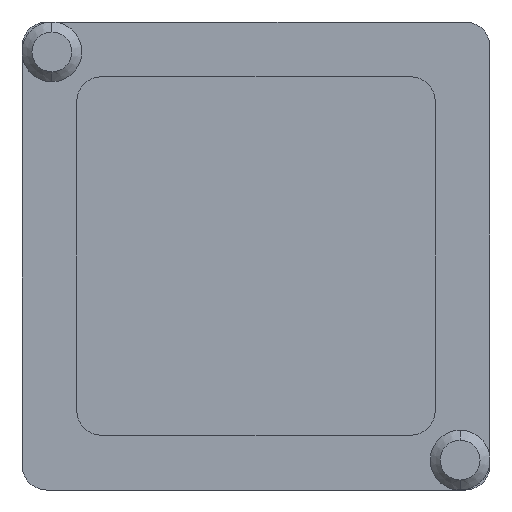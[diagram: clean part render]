
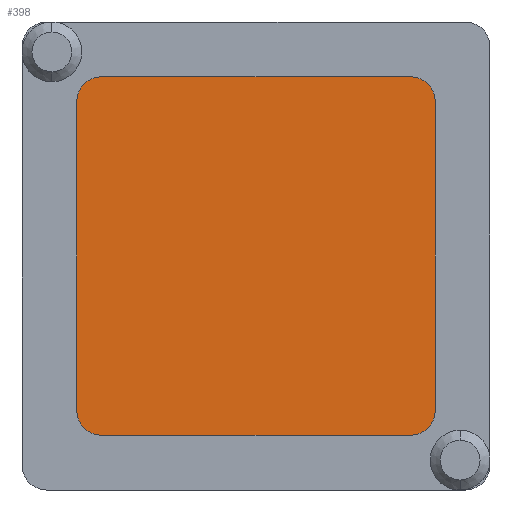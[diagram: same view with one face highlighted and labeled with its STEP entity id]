
A CAD part, front view. The second image highlights one B-rep face of the part: STEP entity #398.
In plain terms, the highlighted planar face has unit normal (0, -1, 0).
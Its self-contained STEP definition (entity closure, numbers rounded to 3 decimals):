
#22 = ORIENTED_EDGE ( 'NONE', *, *, #369, .T. ) ;
#62 = CIRCLE ( 'NONE', #1085, 0.25 ) ;
#70 = ORIENTED_EDGE ( 'NONE', *, *, #1193, .T. ) ;
#75 = DIRECTION ( 'NONE',  ( 0., 0., 1. ) ) ;
#83 = EDGE_LOOP ( 'NONE', ( #959, #1012, #233, #1008, #1133, #22, #471, #70 ) ) ;
#106 = DIRECTION ( 'NONE',  ( 0., 0., 1. ) ) ;
#155 = AXIS2_PLACEMENT_3D ( 'NONE', #731, #320, #106 ) ;
#176 = VECTOR ( 'NONE', #1250, 1000. ) ;
#233 = ORIENTED_EDGE ( 'NONE', *, *, #344, .T. ) ;
#238 = VERTEX_POINT ( 'NONE', #739 ) ;
#263 = CIRCLE ( 'NONE', #984, 0.25 ) ;
#273 = DIRECTION ( 'NONE',  ( 0., -1., 0. ) ) ;
#278 = CARTESIAN_POINT ( 'NONE',  ( 0.8, 2.2, -0.8 ) ) ;
#320 = DIRECTION ( 'NONE',  ( 0., -1., 0. ) ) ;
#344 = EDGE_CURVE ( 'NONE', #1210, #1041, #455, .T. ) ;
#354 = DIRECTION ( 'NONE',  ( 0., -1., 0. ) ) ;
#369 = EDGE_CURVE ( 'NONE', #1061, #531, #653, .T. ) ;
#374 = EDGE_CURVE ( 'NONE', #871, #1061, #470, .T. ) ;
#378 = DIRECTION ( 'NONE',  ( 0., -1., 0. ) ) ;
#394 = CARTESIAN_POINT ( 'NONE',  ( 3.9, 2.2, -0.55 ) ) ;
#398 = ADVANCED_FACE ( 'NONE', ( #1201 ), #745, .T. ) ;
#403 = VERTEX_POINT ( 'NONE', #753 ) ;
#432 = EDGE_CURVE ( 'NONE', #1041, #871, #62, .T. ) ;
#455 = LINE ( 'NONE', #746, #176 ) ;
#470 = LINE ( 'NONE', #982, #971 ) ;
#471 = ORIENTED_EDGE ( 'NONE', *, *, #515, .T. ) ;
#492 = CARTESIAN_POINT ( 'NONE',  ( 4.15, 2.2, -0.8 ) ) ;
#493 = VECTOR ( 'NONE', #909, 1000. ) ;
#515 = EDGE_CURVE ( 'NONE', #531, #403, #593, .T. ) ;
#531 = VERTEX_POINT ( 'NONE', #695 ) ;
#573 = DIRECTION ( 'NONE',  ( 0., 0., 1. ) ) ;
#593 = LINE ( 'NONE', #601, #831 ) ;
#601 = CARTESIAN_POINT ( 'NONE',  ( 0.55, 2.2, -4.15 ) ) ;
#605 = CARTESIAN_POINT ( 'NONE',  ( 4.15, 2.2, -4.15 ) ) ;
#628 = EDGE_CURVE ( 'NONE', #238, #1131, #1183, .T. ) ;
#635 = DIRECTION ( 'NONE',  ( 0., 0., -1. ) ) ;
#638 = CARTESIAN_POINT ( 'NONE',  ( 0.55, 2.2, -0.8 ) ) ;
#653 = CIRCLE ( 'NONE', #916, 0.25 ) ;
#662 = CARTESIAN_POINT ( 'NONE',  ( 0.8, 2.2, -0.55 ) ) ;
#695 = CARTESIAN_POINT ( 'NONE',  ( 0.8, 2.2, -4.15 ) ) ;
#718 = EDGE_CURVE ( 'NONE', #1131, #1210, #1299, .T. ) ;
#731 = CARTESIAN_POINT ( 'NONE',  ( 3.9, 2.2, -0.8 ) ) ;
#739 = CARTESIAN_POINT ( 'NONE',  ( 4.15, 2.2, -3.9 ) ) ;
#745 = PLANE ( 'NONE',  #820 ) ;
#746 = CARTESIAN_POINT ( 'NONE',  ( 4.15, 2.2, -0.55 ) ) ;
#753 = CARTESIAN_POINT ( 'NONE',  ( 3.9, 2.2, -4.15 ) ) ;
#820 = AXIS2_PLACEMENT_3D ( 'NONE', #1245, #354, #635 ) ;
#831 = VECTOR ( 'NONE', #1319, 1000. ) ;
#871 = VERTEX_POINT ( 'NONE', #638 ) ;
#880 = CARTESIAN_POINT ( 'NONE',  ( 0.55, 2.2, -3.9 ) ) ;
#883 = DIRECTION ( 'NONE',  ( 0., 0., -1. ) ) ;
#909 = DIRECTION ( 'NONE',  ( 0., 0., 1. ) ) ;
#916 = AXIS2_PLACEMENT_3D ( 'NONE', #1076, #273, #1082 ) ;
#959 = ORIENTED_EDGE ( 'NONE', *, *, #628, .T. ) ;
#971 = VECTOR ( 'NONE', #883, 1000. ) ;
#982 = CARTESIAN_POINT ( 'NONE',  ( 0.55, 2.2, -0.55 ) ) ;
#984 = AXIS2_PLACEMENT_3D ( 'NONE', #1099, #1300, #75 ) ;
#1008 = ORIENTED_EDGE ( 'NONE', *, *, #432, .T. ) ;
#1012 = ORIENTED_EDGE ( 'NONE', *, *, #718, .T. ) ;
#1041 = VERTEX_POINT ( 'NONE', #662 ) ;
#1061 = VERTEX_POINT ( 'NONE', #880 ) ;
#1076 = CARTESIAN_POINT ( 'NONE',  ( 0.8, 2.2, -3.9 ) ) ;
#1082 = DIRECTION ( 'NONE',  ( 0., 0., 1. ) ) ;
#1085 = AXIS2_PLACEMENT_3D ( 'NONE', #278, #378, #573 ) ;
#1099 = CARTESIAN_POINT ( 'NONE',  ( 3.9, 2.2, -3.9 ) ) ;
#1131 = VERTEX_POINT ( 'NONE', #492 ) ;
#1133 = ORIENTED_EDGE ( 'NONE', *, *, #374, .T. ) ;
#1183 = LINE ( 'NONE', #605, #493 ) ;
#1193 = EDGE_CURVE ( 'NONE', #403, #238, #263, .T. ) ;
#1201 = FACE_OUTER_BOUND ( 'NONE', #83, .T. ) ;
#1210 = VERTEX_POINT ( 'NONE', #394 ) ;
#1245 = CARTESIAN_POINT ( 'NONE',  ( 0., 2.2, 0. ) ) ;
#1250 = DIRECTION ( 'NONE',  ( -1., 0., 0. ) ) ;
#1299 = CIRCLE ( 'NONE', #155, 0.25 ) ;
#1300 = DIRECTION ( 'NONE',  ( 0., -1., 0. ) ) ;
#1319 = DIRECTION ( 'NONE',  ( 1., 0., 0. ) ) ;
